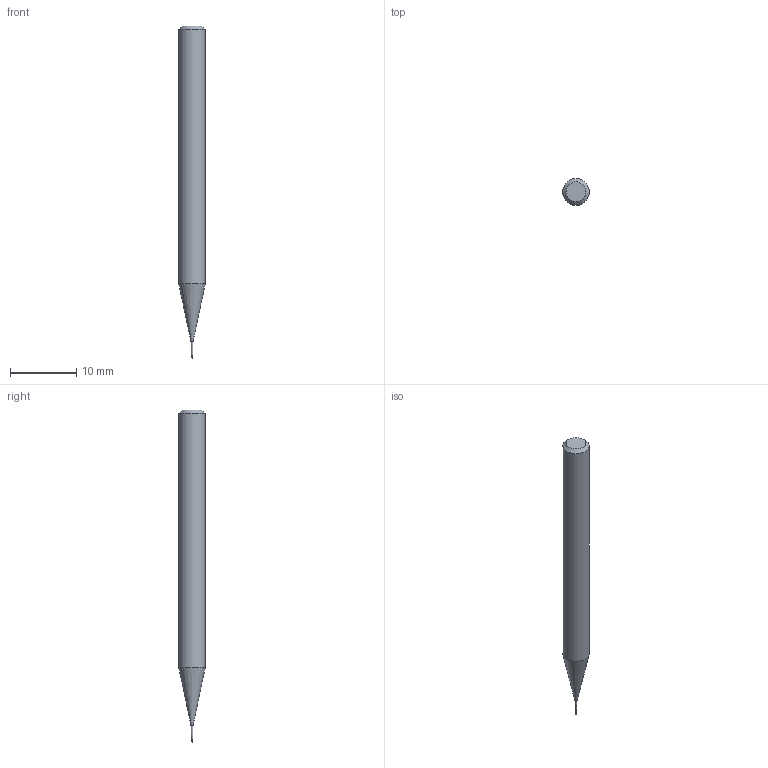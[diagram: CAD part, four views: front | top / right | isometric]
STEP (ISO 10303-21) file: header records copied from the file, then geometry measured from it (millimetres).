
FILE_DESCRIPTION((''),'2;1');
FILE_NAME('C:\Users\nsx150\AppData\Local\Temp\Mastercam 2021\SNAKH10GOD\TEMP.step','2021-10-21T13:30:36',(''),(''),'STEP Write','Mastercam 2021 ... CNC Software, Inc.','');
FILE_SCHEMA(('AUTOMOTIVE_DESIGN'));
Length unit declared in the file: millimetre
Products named in the file (1): None
Bounding box: 4 x 4 x 50 mm (x, y, z)
Volume: 525.9 mm3; surface area: 558.4 mm2
Topology: 2 solids, 2 shells, 10 faces, 16 edges, 9 vertices
Faces by surface type: plane 3, cylinder 3, cone 3, sphere 1
Full cylindrical faces by diameter (mm): 0.195 x1, 0.2 x1, 4 x1
Entity records: 232 total; most frequent: DIRECTION 40, CARTESIAN_POINT 28, AXIS2_PLACEMENT_3D 20, ORIENTED_EDGE 16, EDGE_LOOP 16, STYLED_ITEM 13, ADVANCED_FACE 10, FACE_BOUND 9
